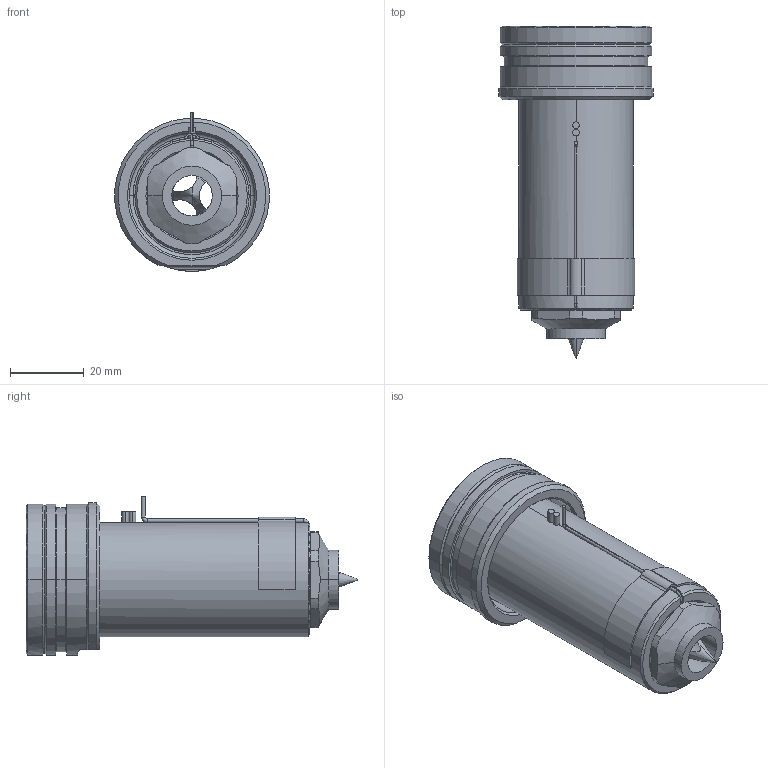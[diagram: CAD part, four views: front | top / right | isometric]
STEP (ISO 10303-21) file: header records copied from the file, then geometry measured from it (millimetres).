
FILE_DESCRIPTION((''),'2;1');
FILE_NAME('EO12_PG-BL_WR_070_SW','2024-02-19T11:13:56',('sundharh'),(''),'CREO PARAMETRIC BY PTC INC, 2023154','CREO PARAMETRIC BY PTC INC, 2023154','');
FILE_SCHEMA(('CONFIG_CONTROL_DESIGN'));
Length unit declared in the file: millimetre
Products named in the file (1): EO12_PG-BL_WR_070_SW
Bounding box: 41.85 x 90 x 43 mm (x, y, z)
Volume: 61370.9 mm3; surface area: 19753.1 mm2
Topology: 2 solids, 3 shells, 213 faces, 571 edges, 353 vertices
Faces by surface type: cylinder 80, plane 60, cone 41, torus 27, bspline 3, sphere 2
Entity records: 7724 total; most frequent: CARTESIAN_POINT 2262, DIRECTION 1201, ORIENTED_EDGE 1138, EDGE_CURVE 569, AXIS2_PLACEMENT_3D 505, VERTEX_POINT 353, CIRCLE 295, EDGE_LOOP 230
